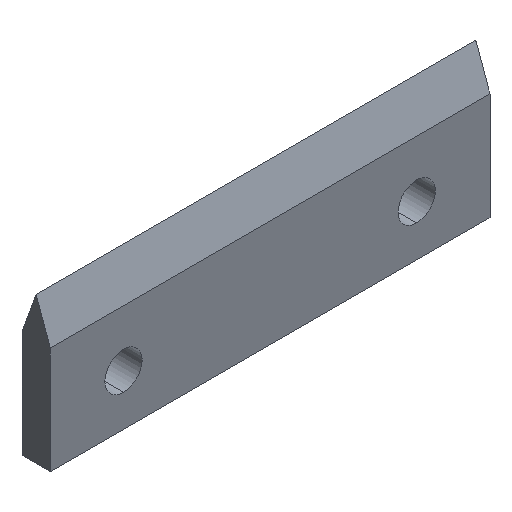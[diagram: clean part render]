
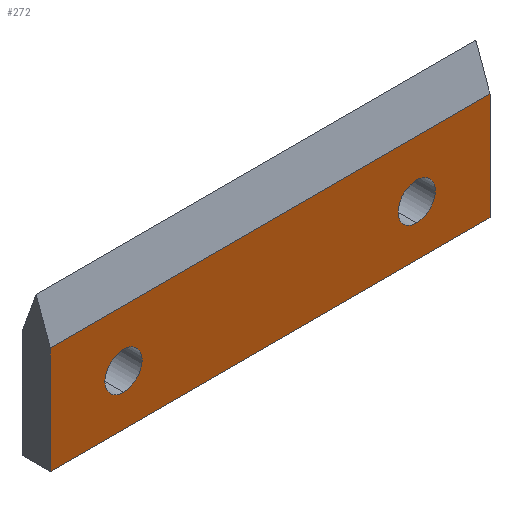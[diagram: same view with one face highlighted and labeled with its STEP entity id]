
A CAD part, isometric view. The second image highlights one B-rep face of the part: STEP entity #272.
In plain terms, the highlighted planar face has unit normal (0, -1, 0).
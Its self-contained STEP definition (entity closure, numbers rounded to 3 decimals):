
#6 = VERTEX_POINT ( 'NONE', #187 ) ;
#7 = CARTESIAN_POINT ( 'NONE',  ( 32.5, 0., -6.85 ) ) ;
#18 = ORIENTED_EDGE ( 'NONE', *, *, #340, .F. ) ;
#21 = FACE_OUTER_BOUND ( 'NONE', #210, .T. ) ;
#26 = VECTOR ( 'NONE', #69, 1000. ) ;
#33 = VECTOR ( 'NONE', #60, 1000. ) ;
#35 = CIRCLE ( 'NONE', #127, 1.65 ) ;
#40 = DIRECTION ( 'NONE',  ( 1., 0., 0. ) ) ;
#43 = VERTEX_POINT ( 'NONE', #154 ) ;
#45 = LINE ( 'NONE', #334, #26 ) ;
#50 = ORIENTED_EDGE ( 'NONE', *, *, #111, .F. ) ;
#60 = DIRECTION ( 'NONE',  ( 0., 0., 1. ) ) ;
#61 = EDGE_CURVE ( 'NONE', #276, #203, #35, .T. ) ;
#66 = VECTOR ( 'NONE', #280, 1000. ) ;
#69 = DIRECTION ( 'NONE',  ( 0., 0., -1. ) ) ;
#75 = AXIS2_PLACEMENT_3D ( 'NONE', #117, #125, #156 ) ;
#83 = ORIENTED_EDGE ( 'NONE', *, *, #333, .T. ) ;
#87 = LINE ( 'NONE', #221, #33 ) ;
#89 = CIRCLE ( 'NONE', #273, 1.65 ) ;
#104 = EDGE_LOOP ( 'NONE', ( #200, #115 ) ) ;
#105 = PLANE ( 'NONE',  #183 ) ;
#107 = FACE_BOUND ( 'NONE', #274, .T. ) ;
#111 = EDGE_CURVE ( 'NONE', #6, #364, #222, .T. ) ;
#115 = ORIENTED_EDGE ( 'NONE', *, *, #61, .T. ) ;
#116 = DIRECTION ( 'NONE',  ( 0., 0., 1. ) ) ;
#117 = CARTESIAN_POINT ( 'NONE',  ( 32.5, 0., -8.5 ) ) ;
#122 = EDGE_CURVE ( 'NONE', #315, #6, #45, .T. ) ;
#125 = DIRECTION ( 'NONE',  ( 0., 1., 0. ) ) ;
#126 = AXIS2_PLACEMENT_3D ( 'NONE', #160, #295, #116 ) ;
#127 = AXIS2_PLACEMENT_3D ( 'NONE', #135, #169, #136 ) ;
#135 = CARTESIAN_POINT ( 'NONE',  ( 6.5, 0., -8.5 ) ) ;
#136 = DIRECTION ( 'NONE',  ( 0., 0., 1. ) ) ;
#143 = ORIENTED_EDGE ( 'NONE', *, *, #209, .F. ) ;
#144 = CARTESIAN_POINT ( 'NONE',  ( 0., 0., 0. ) ) ;
#146 = VECTOR ( 'NONE', #40, 1000. ) ;
#148 = DIRECTION ( 'NONE',  ( 0., 1., 0. ) ) ;
#154 = CARTESIAN_POINT ( 'NONE',  ( 32.5, 0., -10.15 ) ) ;
#155 = CARTESIAN_POINT ( 'NONE',  ( 39., 0., -3.5 ) ) ;
#156 = DIRECTION ( 'NONE',  ( 0., 0., 1. ) ) ;
#160 = CARTESIAN_POINT ( 'NONE',  ( 6.5, 0., -8.5 ) ) ;
#169 = DIRECTION ( 'NONE',  ( 0., 1., 0. ) ) ;
#178 = VERTEX_POINT ( 'NONE', #7 ) ;
#179 = CARTESIAN_POINT ( 'NONE',  ( 0., 0., -3.5 ) ) ;
#183 = AXIS2_PLACEMENT_3D ( 'NONE', #144, #231, #239 ) ;
#187 = CARTESIAN_POINT ( 'NONE',  ( 39., 0., -13. ) ) ;
#195 = CIRCLE ( 'NONE', #126, 1.65 ) ;
#197 = LINE ( 'NONE', #302, #146 ) ;
#200 = ORIENTED_EDGE ( 'NONE', *, *, #298, .T. ) ;
#203 = VERTEX_POINT ( 'NONE', #223 ) ;
#209 = EDGE_CURVE ( 'NONE', #292, #315, #197, .T. ) ;
#210 = EDGE_LOOP ( 'NONE', ( #143, #18, #50, #215 ) ) ;
#215 = ORIENTED_EDGE ( 'NONE', *, *, #122, .F. ) ;
#216 = DIRECTION ( 'NONE',  ( 0., 0., 1. ) ) ;
#217 = EDGE_CURVE ( 'NONE', #178, #43, #89, .T. ) ;
#219 = CARTESIAN_POINT ( 'NONE',  ( 0., 0., -13. ) ) ;
#221 = CARTESIAN_POINT ( 'NONE',  ( 0., 0., 0. ) ) ;
#222 = LINE ( 'NONE', #306, #66 ) ;
#223 = CARTESIAN_POINT ( 'NONE',  ( 6.5, 0., -10.15 ) ) ;
#231 = DIRECTION ( 'NONE',  ( 0., -1., 0. ) ) ;
#239 = DIRECTION ( 'NONE',  ( 0., 0., -1. ) ) ;
#258 = FACE_BOUND ( 'NONE', #104, .T. ) ;
#272 = ADVANCED_FACE ( 'NONE', ( #21, #258, #107 ), #105, .T. ) ;
#273 = AXIS2_PLACEMENT_3D ( 'NONE', #348, #148, #216 ) ;
#274 = EDGE_LOOP ( 'NONE', ( #83, #372 ) ) ;
#276 = VERTEX_POINT ( 'NONE', #373 ) ;
#280 = DIRECTION ( 'NONE',  ( -1., 0., 0. ) ) ;
#292 = VERTEX_POINT ( 'NONE', #179 ) ;
#295 = DIRECTION ( 'NONE',  ( 0., 1., 0. ) ) ;
#298 = EDGE_CURVE ( 'NONE', #203, #276, #195, .T. ) ;
#302 = CARTESIAN_POINT ( 'NONE',  ( -3., 0., -3.5 ) ) ;
#306 = CARTESIAN_POINT ( 'NONE',  ( 0., 0., -13. ) ) ;
#308 = CIRCLE ( 'NONE', #75, 1.65 ) ;
#315 = VERTEX_POINT ( 'NONE', #155 ) ;
#333 = EDGE_CURVE ( 'NONE', #43, #178, #308, .T. ) ;
#334 = CARTESIAN_POINT ( 'NONE',  ( 39., 0., 0. ) ) ;
#340 = EDGE_CURVE ( 'NONE', #364, #292, #87, .T. ) ;
#348 = CARTESIAN_POINT ( 'NONE',  ( 32.5, 0., -8.5 ) ) ;
#364 = VERTEX_POINT ( 'NONE', #219 ) ;
#372 = ORIENTED_EDGE ( 'NONE', *, *, #217, .T. ) ;
#373 = CARTESIAN_POINT ( 'NONE',  ( 6.5, 0., -6.85 ) ) ;
